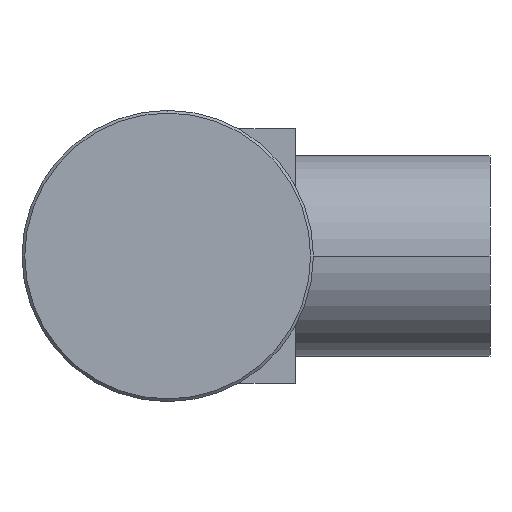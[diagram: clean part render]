
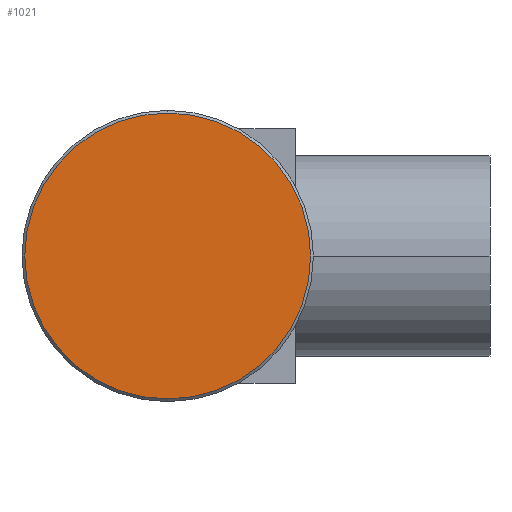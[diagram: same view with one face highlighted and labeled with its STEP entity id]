
A CAD part, left-side view. The second image highlights one B-rep face of the part: STEP entity #1021.
In plain terms, the highlighted planar face has unit normal (-1, 0, 0).
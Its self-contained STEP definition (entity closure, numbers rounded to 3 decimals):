
#24 = EDGE_CURVE ( 'NONE', #170, #1164, #739, .T. ) ;
#76 = DIRECTION ( 'NONE',  ( -1., 0., 0. ) ) ;
#85 = DIRECTION ( 'NONE',  ( 0., 0., 1. ) ) ;
#92 = DIRECTION ( 'NONE',  ( 1., 0., 0. ) ) ;
#101 = CARTESIAN_POINT ( 'NONE',  ( 0., 0., 15.7 ) ) ;
#170 = VERTEX_POINT ( 'NONE', #101 ) ;
#212 = DIRECTION ( 'NONE',  ( 0., 0., -1. ) ) ;
#354 = CARTESIAN_POINT ( 'NONE',  ( 0., 0., 0. ) ) ;
#412 = AXIS2_PLACEMENT_3D ( 'NONE', #1251, #92, #212 ) ;
#471 = CARTESIAN_POINT ( 'NONE',  ( 0., 0., -15.7 ) ) ;
#496 = EDGE_LOOP ( 'NONE', ( #800, #946 ) ) ;
#500 = CARTESIAN_POINT ( 'NONE',  ( 0., 0., 0. ) ) ;
#572 = AXIS2_PLACEMENT_3D ( 'NONE', #354, #1065, #766 ) ;
#673 = FACE_OUTER_BOUND ( 'NONE', #496, .T. ) ;
#713 = CIRCLE ( 'NONE', #572, 15.7 ) ;
#739 = CIRCLE ( 'NONE', #1296, 15.7 ) ;
#766 = DIRECTION ( 'NONE',  ( 0., 0., 1. ) ) ;
#800 = ORIENTED_EDGE ( 'NONE', *, *, #1142, .T. ) ;
#946 = ORIENTED_EDGE ( 'NONE', *, *, #24, .T. ) ;
#1021 = ADVANCED_FACE ( 'NONE', ( #673 ), #1127, .F. ) ;
#1065 = DIRECTION ( 'NONE',  ( -1., 0., 0. ) ) ;
#1127 = PLANE ( 'NONE',  #412 ) ;
#1142 = EDGE_CURVE ( 'NONE', #1164, #170, #713, .T. ) ;
#1164 = VERTEX_POINT ( 'NONE', #471 ) ;
#1251 = CARTESIAN_POINT ( 'NONE',  ( 0., 0., 0. ) ) ;
#1296 = AXIS2_PLACEMENT_3D ( 'NONE', #500, #76, #85 ) ;
